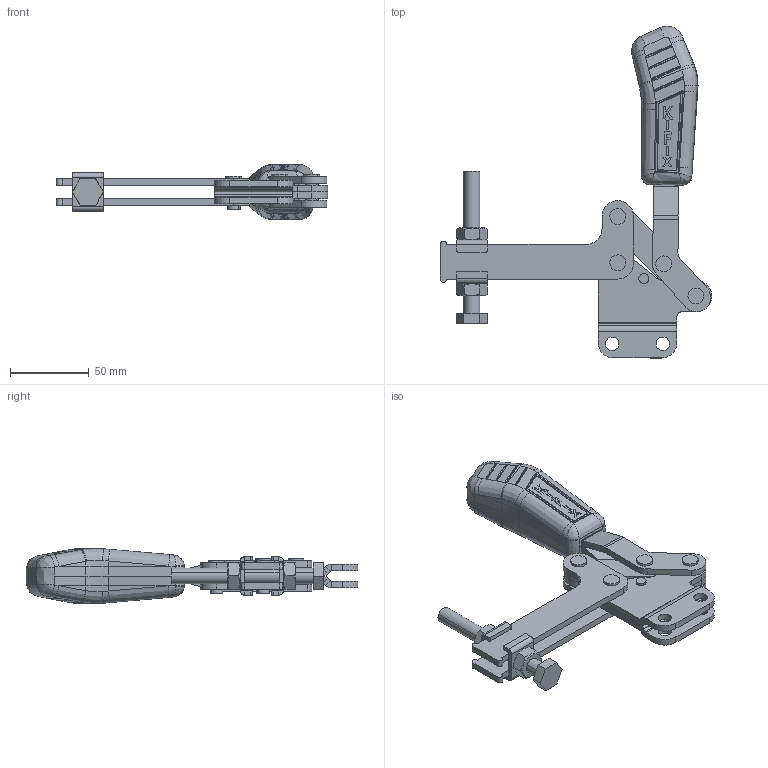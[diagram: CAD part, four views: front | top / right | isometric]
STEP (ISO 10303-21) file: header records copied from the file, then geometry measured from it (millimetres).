
FILE_DESCRIPTION (( 'STEP AP203' ), '1' );
FILE_NAME ('KF-631 RL.STEP', '2018-11-29T18:23:53', ( 'Ricardo' ), ( '' ), 'SwSTEP 2.0', 'SolidWorks 2018', '' );
FILE_SCHEMA (( 'CONFIG_CONTROL_DESIGN' ));
Length unit declared in the file: millimetre
Products named in the file (13): 01.10016_Esquerda; 03.13050; 3670000086; 08.10008; KF-631 RL; 07.60002; 14.10003; 12.50021; 11.50003; 3670000087; 02.11034_Direita; 01.10016_Direita; 02.11034_Esquerda
Assembly tree (19 placements, depth 2):
  KF-631 RL
    02.11034_Direita
    02.11034_Esquerda
    03.13050  x2
    08.10008  x2
    07.60002
    14.10003  x2
    12.50021
    11.50003  x2
    3670000087
    01.10016_Direita
    01.10016_Esquerda
    3670000086  x4
Bounding box: 172 x 210.43 x 35.03 mm (x, y, z)
Volume: 185452 mm3; surface area: 79225.1 mm2
Topology: 19 solids, 19 shells, 729 faces, 1802 edges, 1125 vertices
Faces by surface type: plane 295, cylinder 202, bspline 157, sphere 52, cone 20, torus 3
Entity records: 24445 total; most frequent: CARTESIAN_POINT 9038, ORIENTED_EDGE 3136, DIRECTION 2503, EDGE_CURVE 1568, VERTEX_POINT 981, AXIS2_PLACEMENT_3D 939, EDGE_LOOP 701, ADVANCED_FACE 634
